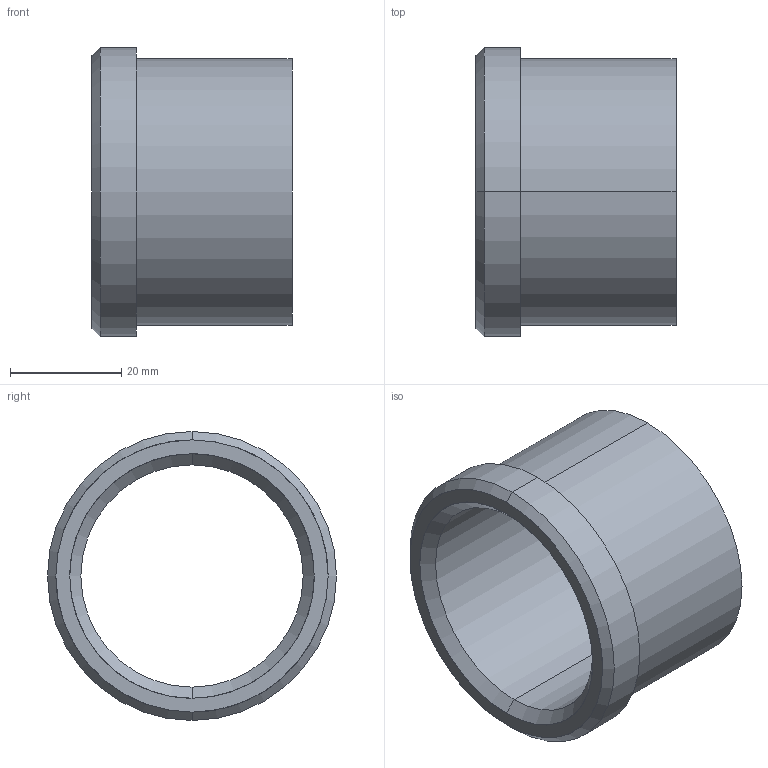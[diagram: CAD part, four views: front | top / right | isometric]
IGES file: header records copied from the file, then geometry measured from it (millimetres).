
Start section: START RECORD GO HERE.
Global section: file name: 353-40X36.igs; native system: DASSAULT SYSTEMES CATIA V5 R20 - www.3ds.com; preprocessor: CATIA Version 5 Release 20 ; author: Utente; organization: NB04-ASUS; date: 20210513.202753; units: millimetre
Bounding box: 36 x 52 x 52 mm (x, y, z)
Surface area: 11392.7 mm2 (no closed solid volume)
Topology: 0 solids, 0 shells, 15 faces, 96 edges, 96 vertices
Faces by surface type: revolution 12, plane 3
